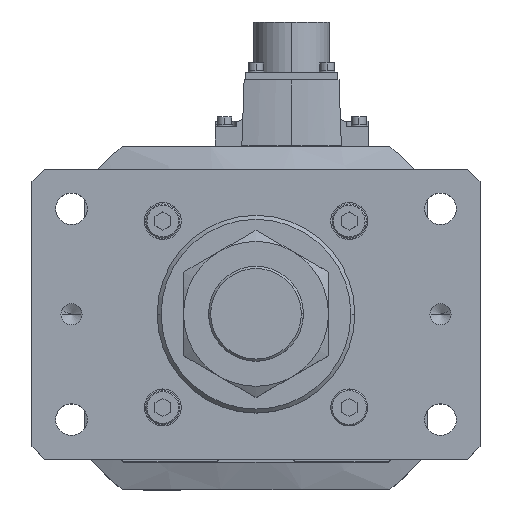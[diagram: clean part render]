
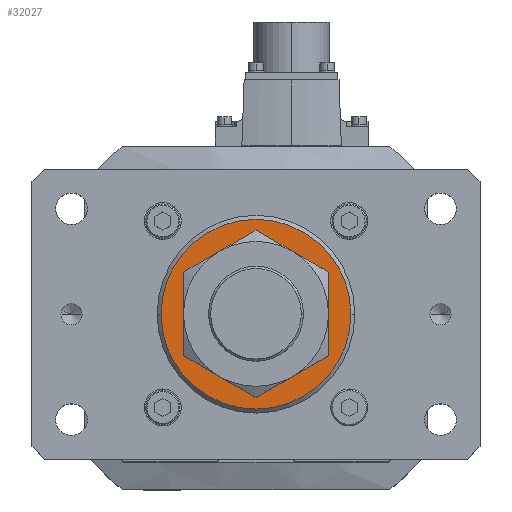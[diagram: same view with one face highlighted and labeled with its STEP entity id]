
A CAD part, top view. The second image highlights one B-rep face of the part: STEP entity #32027.
In plain terms, the highlighted planar face has unit normal (0, 0, 1).
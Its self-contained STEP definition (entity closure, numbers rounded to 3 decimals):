
#291 = EDGE_CURVE ( 'NONE', #11921, #3392, #7151, .T. ) ;
#577 = CARTESIAN_POINT ( 'NONE',  ( 0., 0., 596. ) ) ;
#3198 = DIRECTION ( 'NONE',  ( 0., 0., -1. ) ) ;
#3392 = VERTEX_POINT ( 'NONE', #6671 ) ;
#3573 = DIRECTION ( 'NONE',  ( 1., 0., 0. ) ) ;
#4159 = CARTESIAN_POINT ( 'NONE',  ( -23., 0., 596. ) ) ;
#4593 = DIRECTION ( 'NONE',  ( 1., 0., 0. ) ) ;
#5667 = CIRCLE ( 'NONE', #27139, 23. ) ;
#6671 = CARTESIAN_POINT ( 'NONE',  ( 23., 0., 596. ) ) ;
#6866 = CARTESIAN_POINT ( 'NONE',  ( 0., 0., 596. ) ) ;
#7151 = CIRCLE ( 'NONE', #10084, 23. ) ;
#7548 = ORIENTED_EDGE ( 'NONE', *, *, #34521, .T. ) ;
#8914 = AXIS2_PLACEMENT_3D ( 'NONE', #34581, #14584, #23220 ) ;
#10084 = AXIS2_PLACEMENT_3D ( 'NONE', #14707, #3198, #34346 ) ;
#10765 = FACE_BOUND ( 'NONE', #36536, .T. ) ;
#11921 = VERTEX_POINT ( 'NONE', #4159 ) ;
#12617 = DIRECTION ( 'NONE',  ( 1., 0., 0. ) ) ;
#13000 = CARTESIAN_POINT ( 'NONE',  ( 0., 0., 596. ) ) ;
#13480 = AXIS2_PLACEMENT_3D ( 'NONE', #577, #35216, #3573 ) ;
#14582 = CIRCLE ( 'NONE', #13480, 36. ) ;
#14584 = DIRECTION ( 'NONE',  ( 0., 0., 1. ) ) ;
#14707 = CARTESIAN_POINT ( 'NONE',  ( 0., 0., 596. ) ) ;
#15383 = DIRECTION ( 'NONE',  ( 0., 0., 1. ) ) ;
#15504 = CIRCLE ( 'NONE', #8914, 36. ) ;
#18377 = FACE_OUTER_BOUND ( 'NONE', #31064, .T. ) ;
#18501 = PLANE ( 'NONE',  #23718 ) ;
#18983 = DIRECTION ( 'NONE',  ( 0., 0., -1. ) ) ;
#22456 = ORIENTED_EDGE ( 'NONE', *, *, #34371, .T. ) ;
#23220 = DIRECTION ( 'NONE',  ( 1., 0., 0. ) ) ;
#23718 = AXIS2_PLACEMENT_3D ( 'NONE', #6866, #15383, #12617 ) ;
#24235 = VERTEX_POINT ( 'NONE', #25246 ) ;
#25246 = CARTESIAN_POINT ( 'NONE',  ( 36., 0., 596. ) ) ;
#26827 = EDGE_CURVE ( 'NONE', #3392, #11921, #5667, .T. ) ;
#27139 = AXIS2_PLACEMENT_3D ( 'NONE', #13000, #18983, #4593 ) ;
#31064 = EDGE_LOOP ( 'NONE', ( #22456, #7548 ) ) ;
#32027 = ADVANCED_FACE ( 'NONE', ( #10765, #18377 ), #18501, .T. ) ;
#32987 = ORIENTED_EDGE ( 'NONE', *, *, #26827, .T. ) ;
#34346 = DIRECTION ( 'NONE',  ( 1., 0., 0. ) ) ;
#34371 = EDGE_CURVE ( 'NONE', #36836, #24235, #15504, .T. ) ;
#34521 = EDGE_CURVE ( 'NONE', #24235, #36836, #14582, .T. ) ;
#34581 = CARTESIAN_POINT ( 'NONE',  ( 0., 0., 596. ) ) ;
#34860 = CARTESIAN_POINT ( 'NONE',  ( -36., 0., 596. ) ) ;
#35173 = ORIENTED_EDGE ( 'NONE', *, *, #291, .T. ) ;
#35216 = DIRECTION ( 'NONE',  ( 0., 0., 1. ) ) ;
#36536 = EDGE_LOOP ( 'NONE', ( #32987, #35173 ) ) ;
#36836 = VERTEX_POINT ( 'NONE', #34860 ) ;
